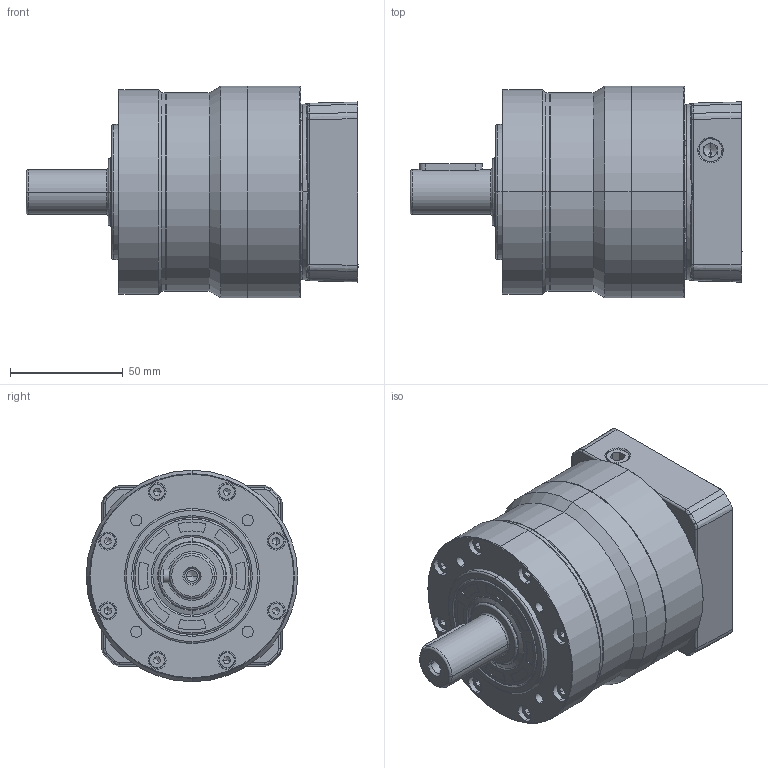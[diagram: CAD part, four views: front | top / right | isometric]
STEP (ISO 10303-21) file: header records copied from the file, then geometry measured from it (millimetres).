
FILE_DESCRIPTION (( 'STEP AP214' ), '1' );
FILE_NAME ('FE090-L1-S2-P2 19-70-90-M5.STEP', '2021-04-23T07:33:55', ( 'Microsoft' ), ( 'Microsoft China' ), 'SwSTEP 2.0', 'SolidWorks 2016', '' );
FILE_SCHEMA (( 'AUTOMOTIVE_DESIGN' ));
Length unit declared in the file: millimetre
Products named in the file (14): hex socket set screws with cone point gb_GB_FASTENER_SCREWS_HSCP M12X12-N; M6-14; M5-12樓粟菜; A倰す瑩 6-28; M4-10樓粟菜; 输入法兰FE090D-70-90-M5; 蚐猾30526; 输入轴锁紧环 23-52-14; 输入轴FE090D-19; 输入端壳体FE090D; 怀堤俴陎殤FE090-20粣; 内齿圈FE080; FE090-L1-S2-P2 19-70-90-M5; 怀堤傷褲极FE080
Assembly tree (31 placements, depth 2):
  FE090-L1-S2-P2 19-70-90-M5
    内齿圈FE080
    怀堤俴陎殤FE090-20粣
    输入端壳体FE090D
    输入轴FE090D-19
    输入轴锁紧环 23-52-14
    蚐猾30526
    输入法兰FE090D-70-90-M5
    M4-10樓粟菜  x8
    A倰す瑩 6-28
    M5-12樓粟菜  x12
    M6-14
    hex socket set screws with cone point gb_GB_FASTENER_SCREWS_HSCP M12X12-N
    怀堤傷褲极FE080
Bounding box: 147.5 x 94 x 94 mm (x, y, z)
Volume: 600953.7 mm3; surface area: 135126.3 mm2
Topology: 11 solids, 51 shells, 1617 faces, 4075 edges, 2600 vertices
Faces by surface type: plane 647, cylinder 403, bspline 272, cone 227, torus 68
Entity records: 54569 total; most frequent: CARTESIAN_POINT 16909, ORIENTED_EDGE 5575, DIRECTION 4563, EDGE_CURVE 2794, VERTEX_POINT 1801, AXIS2_PLACEMENT_3D 1617, VECTOR 1329, LINE 1329
